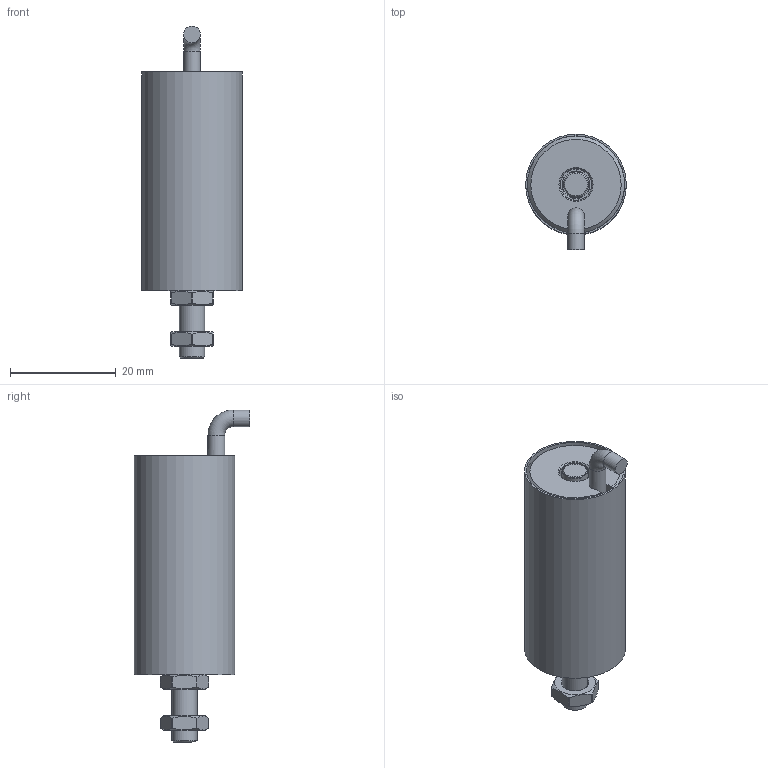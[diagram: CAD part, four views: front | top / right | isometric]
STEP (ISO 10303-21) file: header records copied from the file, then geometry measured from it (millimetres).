
FILE_DESCRIPTION(/* description */ ('ILPS-19Z-XXX-A-00-ZZ shrinkwrapped'),/* implementation_level */ '2;1');
FILE_NAME(/* name */ 'ILPS-19Z-032-A-00-ZZ shrinkwrapped.stp',/* time_stamp */ '2026-08-13T16:05:03-04:00',/* author */ ('Cameron'),/* organization */ ('hgsi'),/* preprocessor_version */ 'ST-DEVELOPER v20.1',/* originating_system */ 'Autodesk Inventor 2027',/* authorisation */ '');
FILE_SCHEMA (('AUTOMOTIVE_DESIGN { 1 0 10303 214 3 1 1 }'));
Length unit declared in the file: inch
Products named in the file (4): ILPS-19Z-032-A-00-ZZ shrinkwrapped; ILPS-19Z-032-A-00-ZZ-A shrinkwrapped body; ILPS-19Z-032 Rod; 8200-0360
Assembly tree (4 placements, depth 2):
  ILPS-19Z-032-A-00-ZZ shrinkwrapped
    ILPS-19Z-032-A-00-ZZ-A shrinkwrapped body
    ILPS-19Z-032 Rod
    8200-0360  x2
Bounding box: 19.05 x 21.89 x 62.8 mm (x, y, z)
Volume: 3232.7 mm3; surface area: 10312.4 mm2
Topology: 6 solids, 6 shells, 95 faces, 226 edges, 149 vertices
Faces by surface type: cylinder 41, plane 33, cone 16, bspline 4, torus 1
Full cylindrical faces by diameter (mm): 3.175 x2, 3.961 x2, 4.75 x1, 4.775 x1, 5 x4, 5.08 x1, 5.944 x2, 5.994 x1, 7.061 x1, 7.137 x2, 18.364 x1, 18.415 x1, 19.05 x1
Entity records: 2811 total; most frequent: CARTESIAN_POINT 1138, DIRECTION 304, ORIENTED_EDGE 302, EDGE_CURVE 151, AXIS2_PLACEMENT_3D 127, VERTEX_POINT 99, EDGE_LOOP 82, FACE_OUTER_BOUND 68
